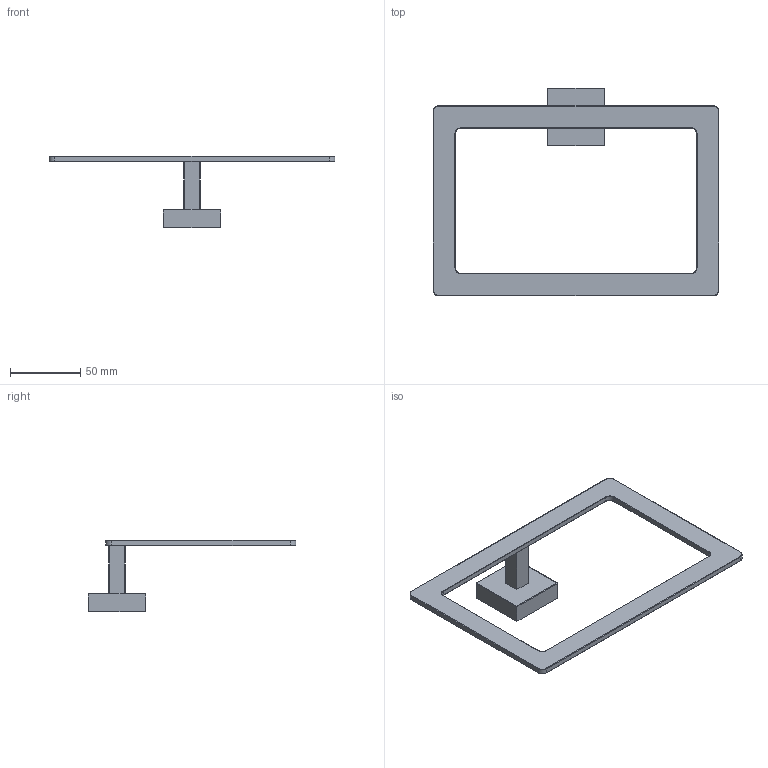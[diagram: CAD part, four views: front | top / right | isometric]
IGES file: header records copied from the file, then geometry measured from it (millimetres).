
Global section: file name: d61cb328-b6c1-4219-b9c2-38d84596f270; native system: unknown; preprocessor: unknown; author: unknown; organization: unknown; date: 20200108.144109; units: millimetre
Bounding box: 203 x 147.55 x 50.8 mm (x, y, z)
Volume: 51085.9 mm3; surface area: 32410 mm2
Topology: 2 solids, 2 shells, 82 faces, 184 edges, 108 vertices
Faces by surface type: bspline 82
